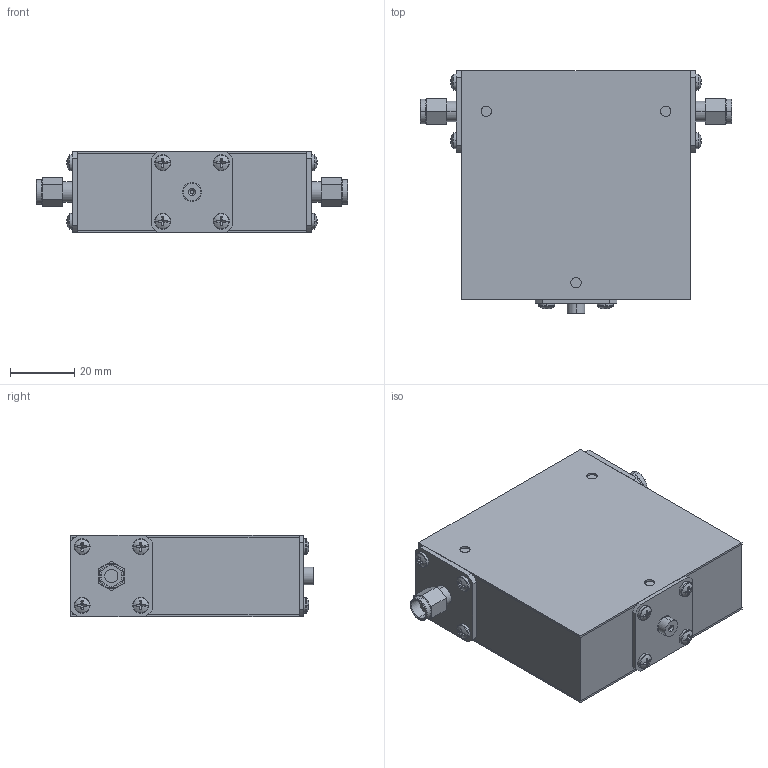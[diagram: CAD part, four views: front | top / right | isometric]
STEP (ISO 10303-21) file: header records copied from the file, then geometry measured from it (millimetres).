
FILE_DESCRIPTION (( 'STEP AP214' ), '1' );
FILE_NAME ('Package 20 Iso MM.step', '2021-12-01T20:59:55', ( '' ), ( '' ), 'SwSTEP 2.0', 'SolidWorks 2016', '' );
FILE_SCHEMA (( 'AUTOMOTIVE_DESIGN' ));
Length unit declared in the file: inch
Products named in the file (6): Package 20 Iso MM; Delta SMA-Male 1 inch; Package 20; 1 inch; Package Size 20; pan cross head_ai_CR-PHMS 0.099-56x0.125x0.125-N
Assembly tree (17 placements, depth 2):
  Package 20 Iso MM
    Package Size 20
    Package 20
    pan cross head_ai_CR-PHMS 0.099-56x0.125x0.125-N  x12
    1 inch
    Delta SMA-Male 1 inch  x2
Bounding box: 96.88 x 75.56 x 25.4 mm (x, y, z)
Volume: 132377.6 mm3; surface area: 47150.1 mm2
Topology: 17 solids, 17 shells, 430 faces, 980 edges, 604 vertices
Faces by surface type: plane 246, cylinder 118, torus 38, sphere 24, cone 4
Entity records: 4284 total; most frequent: DIRECTION 774, CARTESIAN_POINT 668, ORIENTED_EDGE 632, EDGE_CURVE 316, AXIS2_PLACEMENT_3D 308, VERTEX_POINT 202, EDGE_LOOP 168, VECTOR 158
